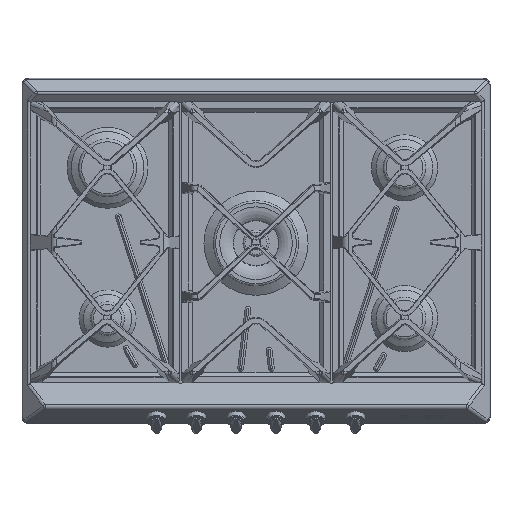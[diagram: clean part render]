
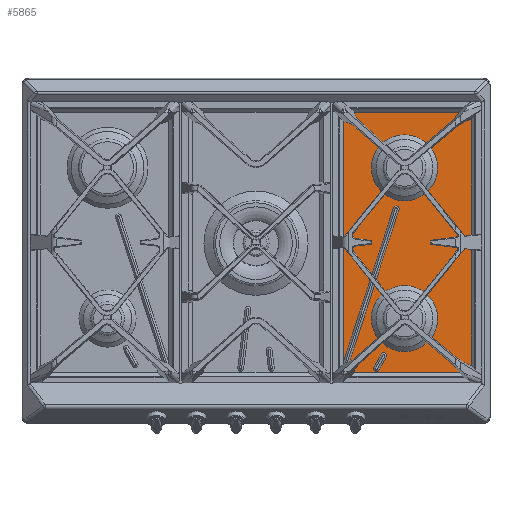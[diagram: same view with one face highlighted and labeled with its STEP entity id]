
A CAD part, top view. The second image highlights one B-rep face of the part: STEP entity #5865.
In plain terms, the highlighted planar face has unit normal (0, 0, 1).
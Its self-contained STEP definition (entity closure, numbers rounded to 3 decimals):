
#1011=LINE('',#33518,#2590);
#1012=LINE('',#33522,#2591);
#1013=LINE('',#33526,#2592);
#1014=LINE('',#33530,#2593);
#1015=LINE('',#33535,#2594);
#1016=LINE('',#33538,#2595);
#1017=LINE('',#33540,#2596);
#1018=LINE('',#33542,#2597);
#2590=VECTOR('',#24815,1.);
#2591=VECTOR('',#24818,1.);
#2592=VECTOR('',#24821,1.);
#2593=VECTOR('',#24824,1.);
#2594=VECTOR('',#24829,1.);
#2595=VECTOR('',#24830,1.);
#2596=VECTOR('',#24831,1.);
#2597=VECTOR('',#24832,1.);
#4439=PLANE('',#21926);
#5494=FACE_BOUND('',#8418,.T.);
#5495=FACE_BOUND('',#8419,.T.);
#5496=FACE_BOUND('',#8420,.T.);
#5497=FACE_BOUND('',#8421,.T.);
#5498=FACE_BOUND('',#8422,.T.);
#5865=ADVANCED_FACE('',(#5494,#5495,#5496,#5497,#5498),#4439,.T.);
#8418=EDGE_LOOP('',(#10380,#10381,#10382,#10383));
#8419=EDGE_LOOP('',(#10384,#10385,#10386,#10387));
#8420=EDGE_LOOP('',(#10388));
#8421=EDGE_LOOP('',(#10389));
#8422=EDGE_LOOP('',(#10390,#10391,#10392,#10393));
#10380=ORIENTED_EDGE('',*,*,#18092,.F.);
#10381=ORIENTED_EDGE('',*,*,#18093,.F.);
#10382=ORIENTED_EDGE('',*,*,#18094,.F.);
#10383=ORIENTED_EDGE('',*,*,#18095,.F.);
#10384=ORIENTED_EDGE('',*,*,#18096,.F.);
#10385=ORIENTED_EDGE('',*,*,#18097,.F.);
#10386=ORIENTED_EDGE('',*,*,#18098,.F.);
#10387=ORIENTED_EDGE('',*,*,#18099,.F.);
#10388=ORIENTED_EDGE('',*,*,#18100,.F.);
#10389=ORIENTED_EDGE('',*,*,#18101,.F.);
#10390=ORIENTED_EDGE('',*,*,#18102,.T.);
#10391=ORIENTED_EDGE('',*,*,#18103,.T.);
#10392=ORIENTED_EDGE('',*,*,#18104,.F.);
#10393=ORIENTED_EDGE('',*,*,#18105,.T.);
#16006=VERTEX_POINT('',#33516);
#16007=VERTEX_POINT('',#33517);
#16008=VERTEX_POINT('',#33519);
#16009=VERTEX_POINT('',#33521);
#16010=VERTEX_POINT('',#33524);
#16011=VERTEX_POINT('',#33525);
#16012=VERTEX_POINT('',#33527);
#16013=VERTEX_POINT('',#33529);
#16014=VERTEX_POINT('',#33532);
#16015=VERTEX_POINT('',#33534);
#16016=VERTEX_POINT('',#33536);
#16017=VERTEX_POINT('',#33537);
#16018=VERTEX_POINT('',#33539);
#16019=VERTEX_POINT('',#33541);
#18092=EDGE_CURVE('',#16006,#16007,#20937,.T.);
#18093=EDGE_CURVE('',#16008,#16006,#1011,.T.);
#18094=EDGE_CURVE('',#16009,#16008,#20938,.T.);
#18095=EDGE_CURVE('',#16007,#16009,#1012,.T.);
#18096=EDGE_CURVE('',#16010,#16011,#20939,.T.);
#18097=EDGE_CURVE('',#16012,#16010,#1013,.T.);
#18098=EDGE_CURVE('',#16013,#16012,#20940,.T.);
#18099=EDGE_CURVE('',#16011,#16013,#1014,.T.);
#18100=EDGE_CURVE('',#16014,#16014,#20941,.T.);
#18101=EDGE_CURVE('',#16015,#16015,#20942,.T.);
#18102=EDGE_CURVE('',#16016,#16017,#1015,.T.);
#18103=EDGE_CURVE('',#16017,#16018,#1016,.T.);
#18104=EDGE_CURVE('',#16019,#16018,#1017,.T.);
#18105=EDGE_CURVE('',#16019,#16016,#1018,.T.);
#20937=CIRCLE('',#21920,4.2);
#20938=CIRCLE('',#21921,4.2);
#20939=CIRCLE('',#21922,4.2);
#20940=CIRCLE('',#21923,4.2);
#20941=CIRCLE('',#21924,48.2);
#20942=CIRCLE('',#21925,48.2);
#21920=AXIS2_PLACEMENT_3D('',#33515,#24813,#24814);
#21921=AXIS2_PLACEMENT_3D('',#33520,#24816,#24817);
#21922=AXIS2_PLACEMENT_3D('',#33523,#24819,#24820);
#21923=AXIS2_PLACEMENT_3D('',#33528,#24822,#24823);
#21924=AXIS2_PLACEMENT_3D('',#33531,#24825,#24826);
#21925=AXIS2_PLACEMENT_3D('',#33533,#24827,#24828);
#21926=AXIS2_PLACEMENT_3D('',#33543,#24833,#24834);
#24813=DIRECTION('',(0.,0.,1.));
#24814=DIRECTION('',(1.,0.,0.));
#24815=DIRECTION('',(-0.485,-0.875,0.));
#24816=DIRECTION('',(0.,0.,1.));
#24817=DIRECTION('',(1.,0.,0.));
#24818=DIRECTION('',(0.485,0.875,0.));
#24819=DIRECTION('',(0.,0.,1.));
#24820=DIRECTION('',(1.,0.,0.));
#24821=DIRECTION('',(-0.309,-0.951,0.));
#24822=DIRECTION('',(0.,0.,1.));
#24823=DIRECTION('',(1.,0.,0.));
#24824=DIRECTION('',(0.309,0.951,0.));
#24825=DIRECTION('',(0.,0.,1.));
#24826=DIRECTION('',(1.,0.,0.));
#24827=DIRECTION('',(0.,0.,1.));
#24828=DIRECTION('',(1.,0.,0.));
#24829=DIRECTION('',(-1.,0.,0.));
#24830=DIRECTION('',(0.,-1.,0.));
#24831=DIRECTION('',(-1.,0.,0.));
#24832=DIRECTION('',(0.,1.,0.));
#24833=DIRECTION('',(0.,0.,1.));
#24834=DIRECTION('',(1.,0.,0.));
#33515=CARTESIAN_POINT('',(497.5,80.1,13.));
#33516=CARTESIAN_POINT('',(493.827,82.136,13.));
#33517=CARTESIAN_POINT('',(501.173,78.064,13.));
#33518=CARTESIAN_POINT('',(504.298,101.028,13.));
#33519=CARTESIAN_POINT('',(504.298,101.028,13.));
#33520=CARTESIAN_POINT('',(507.972,98.992,13.));
#33521=CARTESIAN_POINT('',(511.645,96.956,13.));
#33522=CARTESIAN_POINT('',(501.173,78.064,13.));
#33523=CARTESIAN_POINT('',(451.8,84.45,13.));
#33524=CARTESIAN_POINT('',(447.806,85.748,13.));
#33525=CARTESIAN_POINT('',(455.794,83.152,13.));
#33526=CARTESIAN_POINT('',(522.124,314.477,13.));
#33527=CARTESIAN_POINT('',(522.124,314.477,13.));
#33528=CARTESIAN_POINT('',(526.119,313.179,13.));
#33529=CARTESIAN_POINT('',(530.113,311.881,13.));
#33530=CARTESIAN_POINT('',(455.794,83.152,13.));
#33531=CARTESIAN_POINT('',(538.2,153.,13.));
#33532=CARTESIAN_POINT('',(586.4,153.,13.));
#33533=CARTESIAN_POINT('',(538.2,373.,13.));
#33534=CARTESIAN_POINT('',(586.4,373.,13.));
#33535=CARTESIAN_POINT('',(-20.,462.859,13.));
#33536=CARTESIAN_POINT('',(645.515,462.859,13.));
#33537=CARTESIAN_POINT('',(438.715,462.859,13.));
#33538=CARTESIAN_POINT('',(438.715,483.25,13.));
#33539=CARTESIAN_POINT('',(438.715,65.572,13.));
#33540=CARTESIAN_POINT('',(-20.,65.572,13.));
#33541=CARTESIAN_POINT('',(645.515,65.572,13.));
#33542=CARTESIAN_POINT('',(645.515,31.75,13.));
#33543=CARTESIAN_POINT('',(-20.,0.,13.));
